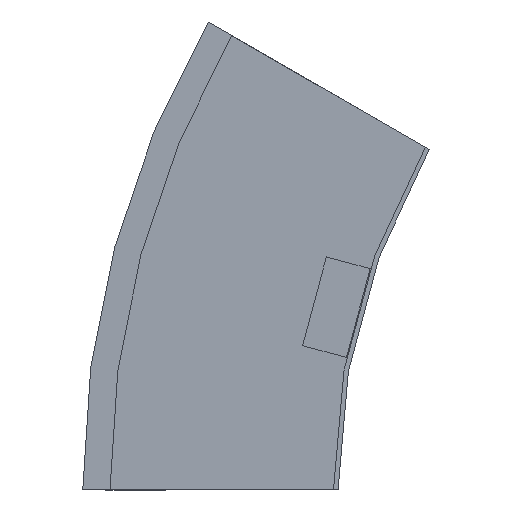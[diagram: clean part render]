
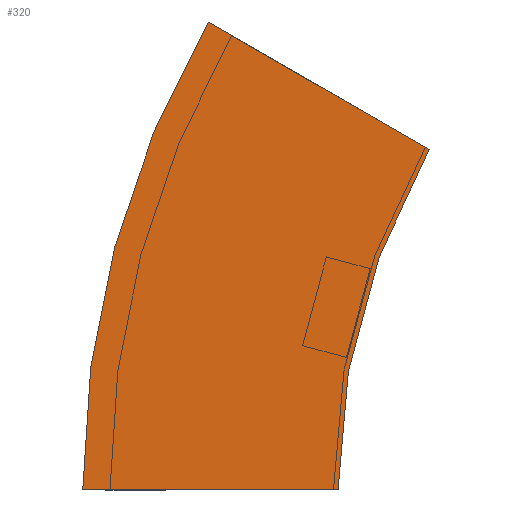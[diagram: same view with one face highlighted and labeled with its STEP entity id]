
A CAD part, left-side view. The second image highlights one B-rep face of the part: STEP entity #320.
In plain terms, the highlighted planar face has unit normal (-1, 0, 0) as drawn and (1, 0, 0) by its records, which use the part's own axes.
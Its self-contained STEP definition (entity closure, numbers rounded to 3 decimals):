
#15 = CARTESIAN_POINT ( 'NONE',  ( 0., 112.5, 0. ) ) ;
#22 = PLANE ( 'NONE',  #103 ) ;
#50 = CARTESIAN_POINT ( 'NONE',  ( 0., 0., 0. ) ) ;
#55 = VERTEX_POINT ( 'NONE', #15 ) ;
#71 = ORIENTED_EDGE ( 'NONE', *, *, #93, .T. ) ;
#73 = CARTESIAN_POINT ( 'NONE',  ( 0., 0., 0. ) ) ;
#79 = LINE ( 'NONE', #429, #486 ) ;
#93 = EDGE_CURVE ( 'NONE', #186, #55, #79, .T. ) ;
#103 = AXIS2_PLACEMENT_3D ( 'NONE', #73, #149, #479 ) ;
#107 = EDGE_CURVE ( 'NONE', #186, #556, #475, .T. ) ;
#149 = DIRECTION ( 'NONE',  ( 1., 0., 0. ) ) ;
#176 = DIRECTION ( 'NONE',  ( 0., 1., 0. ) ) ;
#186 = VERTEX_POINT ( 'NONE', #50 ) ;
#188 = AXIS2_PLACEMENT_3D ( 'NONE', #366, #288, #466 ) ;
#191 = EDGE_CURVE ( 'NONE', #556, #458, #536, .T. ) ;
#204 = EDGE_LOOP ( 'NONE', ( #419, #422, #427, #71 ) ) ;
#205 = FACE_OUTER_BOUND ( 'NONE', #204, .T. ) ;
#272 = EDGE_CURVE ( 'NONE', #55, #458, #497, .T. ) ;
#280 = DIRECTION ( 'NONE',  ( 0., 0.866, 0.5 ) ) ;
#288 = DIRECTION ( 'NONE',  ( 1., 0., 0. ) ) ;
#312 = CARTESIAN_POINT ( 'NONE',  ( 0., -40.192, 150. ) ) ;
#320 = ADVANCED_FACE ( 'NONE', ( #205 ), #22, .T. ) ;
#357 = CARTESIAN_POINT ( 'NONE',  ( 0., -300., 0. ) ) ;
#366 = CARTESIAN_POINT ( 'NONE',  ( 0., -300., 0. ) ) ;
#375 = DIRECTION ( 'NONE',  ( 0., 1., 0. ) ) ;
#389 = DIRECTION ( 'NONE',  ( 1., 0., 0. ) ) ;
#419 = ORIENTED_EDGE ( 'NONE', *, *, #272, .T. ) ;
#422 = ORIENTED_EDGE ( 'NONE', *, *, #191, .F. ) ;
#427 = ORIENTED_EDGE ( 'NONE', *, *, #107, .F. ) ;
#428 = AXIS2_PLACEMENT_3D ( 'NONE', #357, #389, #375 ) ;
#429 = CARTESIAN_POINT ( 'NONE',  ( 0., 0., 0. ) ) ;
#458 = VERTEX_POINT ( 'NONE', #473 ) ;
#466 = DIRECTION ( 'NONE',  ( 0., 1., 0. ) ) ;
#473 = CARTESIAN_POINT ( 'NONE',  ( 0., 57.235, 206.25 ) ) ;
#475 = CIRCLE ( 'NONE', #428, 300. ) ;
#479 = DIRECTION ( 'NONE',  ( 0., 0., -1. ) ) ;
#486 = VECTOR ( 'NONE', #176, 1000. ) ;
#493 = CARTESIAN_POINT ( 'NONE',  ( 0., -40.192, 150. ) ) ;
#497 = CIRCLE ( 'NONE', #188, 412.5 ) ;
#534 = VECTOR ( 'NONE', #280, 1000. ) ;
#536 = LINE ( 'NONE', #493, #534 ) ;
#556 = VERTEX_POINT ( 'NONE', #312 ) ;
